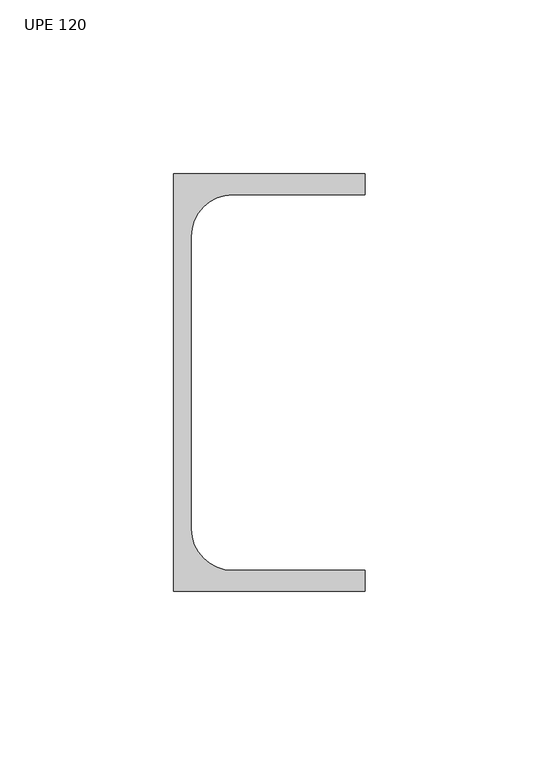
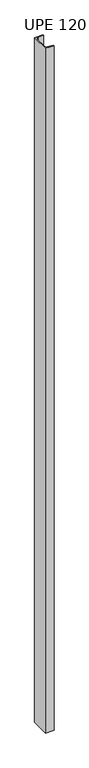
"""IFC4 building model written with IfcOpenShell, lengths in millimetres: column geometry, UPE - Canales de ala paralela - Pilar : UPE 120."""

import ifcopenshell
import ifcopenshell.guid

model = None  # the IFC model being written
_history = None  # IfcOwnerHistory: only IFC2X3 demands one
_inside = {}  # id of a spatial element -> (the spatial element, [elements in it])
_under = {}  # id of a project, library or spatial element -> (it, [spatial elements below it])
_declared = {}  # id of a project -> (the project, [libraries it declares])
_typed = {}  # id of a type object -> (the type object, [elements of that type])
_made_of = {}  # id of a material, layer set ... -> (it, [elements and type objects made of it])


def new_model(schema):
    """Start an empty IFC model of exactly this schema.

    Asked for "IFC4X3", IfcOpenShell would pick the latest addendum, in which some entities
    have other attributes; the version numbers below select the first issue.
    IFC2X3 requires an IfcOwnerHistory on every rooted entity: one is made here for all.
    """
    global model, _history
    if schema == "IFC4X3":
        model = ifcopenshell.file(schema_version=(4, 3, 0, 0))
    else:
        model = ifcopenshell.file(schema=schema)
    _inside.clear()
    _under.clear()
    _declared.clear()
    _typed.clear()
    _made_of.clear()
    _history = None
    if model.schema == "IFC2X3":
        org = make("IfcOrganization", Name="unknown")
        user = make(
            "IfcPersonAndOrganization",
            ThePerson=make("IfcPerson", FamilyName="unknown"),
            TheOrganization=org,
        )
        app = make(
            "IfcApplication",
            ApplicationDeveloper=org,
            Version="unknown",
            ApplicationFullName="unknown",
            ApplicationIdentifier="unknown",
        )
        _history = make(
            "IfcOwnerHistory",
            OwningUser=user,
            OwningApplication=app,
            ChangeAction="ADDED",
            CreationDate=0,
        )
    return model


def make(cls, **values):
    """One entity of the class cls with the attributes given. An attribute that is None is left unset."""
    return model.create_entity(
        cls, **{name: value for name, value in values.items() if value is not None}
    )


def rooted(cls, **values):
    """An entity with a GlobalId (a new one), such as an element, a storey or a relation."""
    return make(cls, GlobalId=ifcopenshell.guid.new(), OwnerHistory=_history, **values)


def si_unit(unit_type, name, prefix=None):
    """IfcSIUnit, for example si_unit("LENGTHUNIT", "METRE", prefix="MILLI")."""
    return make("IfcSIUnit", UnitType=unit_type, Prefix=prefix, Name=name)


def assignment(units):
    """IfcUnitAssignment: the units of a project."""
    return None if units is None else make("IfcUnitAssignment", Units=units)


def point(xyz):
    """IfcCartesianPoint."""
    return None if xyz is None else make("IfcCartesianPoint", Coordinates=xyz)


def direction(xyz):
    """IfcDirection."""
    return None if xyz is None else make("IfcDirection", DirectionRatios=xyz)


def frame(location, z_axis=None, x_axis=None):
    """IfcAxis2Placement3D, a coordinate frame: its origin and axes. An axis left out is left unset."""
    return make(
        "IfcAxis2Placement3D",
        Location=point(location),
        Axis=direction(z_axis),
        RefDirection=direction(x_axis),
    )


def frame_2d(location, x_axis=None):
    """IfcAxis2Placement2D, a coordinate frame in the plane: its origin and x axis."""
    return make(
        "IfcAxis2Placement2D", Location=point(location), RefDirection=direction(x_axis)
    )


def origin():
    """The frame at (0, 0, 0) with its axes left unset."""
    return frame((0.0, 0.0, 0.0))


def origin_with_axes():
    """The frame at (0, 0, 0) with the z axis (0, 0, 1) and the x axis (1, 0, 0) written out."""
    return frame((0.0, 0.0, 0.0), z_axis=(0.0, 0.0, 1.0), x_axis=(1.0, 0.0, 0.0))


def place(relative_to, where):
    """IfcLocalPlacement: puts the frame where relative to a parent placement (None: the world)."""
    return make(
        "IfcLocalPlacement", PlacementRelTo=relative_to, RelativePlacement=where
    )


def context(
    kind, dimensions, precision=None, world=None, true_north=None, identifier=None
):
    """IfcGeometricRepresentationContext, for example the 3D "Model" context."""
    return make(
        "IfcGeometricRepresentationContext",
        ContextIdentifier=identifier,
        ContextType=kind,
        CoordinateSpaceDimension=dimensions,
        Precision=precision,
        WorldCoordinateSystem=world,
        TrueNorth=true_north,
    )


def project(units=None, contexts=None):
    """IfcProject with its units and contexts."""
    return rooted(
        "IfcProject",
        Name="project",
        RepresentationContexts=contexts,
        UnitsInContext=assignment(units),
    )


def spatial(cls, under=None, at=None, **own):
    """A site, building, storey or space (cls), placed at a placement, below another one or the project."""
    s = rooted(cls, ObjectPlacement=at, **own)
    if under is not None:
        _under.setdefault(under.id(), (under, []))[1].append(s)
    return s


def polyline(points):
    """IfcPolyline through the points."""
    return make("IfcPolyline", Points=[point(p) for p in points])


def circle_curve(where, radius):
    """IfcCircle in the frame where."""
    return make("IfcCircle", Position=where, Radius=radius)


def trimmed(basis, trim1, trim2, sense, master):
    """IfcTrimmedCurve: the piece of a basis curve between two trims."""
    return make(
        "IfcTrimmedCurve",
        BasisCurve=basis,
        Trim1=trim1,
        Trim2=trim2,
        SenseAgreement=sense,
        MasterRepresentation=master,
    )


def segment(curve, same_sense, transition):
    """IfcCompositeCurveSegment."""
    return make(
        "IfcCompositeCurveSegment",
        Transition=transition,
        SameSense=same_sense,
        ParentCurve=curve,
    )


def composite_curve(segments, self_intersect=None):
    """IfcCompositeCurve: segments joined end to end."""
    return make("IfcCompositeCurve", Segments=segments, SelfIntersect=self_intersect)


def outline(outer, holes=None, kind="AREA"):
    """IfcArbitraryClosedProfileDef: a profile drawn as a closed curve; with holes, ...WithVoids."""
    if holes is None:
        return make("IfcArbitraryClosedProfileDef", ProfileType=kind, OuterCurve=outer)
    return make(
        "IfcArbitraryProfileDefWithVoids",
        ProfileType=kind,
        OuterCurve=outer,
        InnerCurves=holes,
    )


def extrude(swept, where, along, depth):
    """IfcExtrudedAreaSolid: the profile swept, set in the frame where, extruded along a direction by depth."""
    return make(
        "IfcExtrudedAreaSolid",
        SweptArea=swept,
        Position=where,
        ExtrudedDirection=direction(along),
        Depth=depth,
    )


def shape(context_of_items, identifier, shape_type, items):
    """IfcShapeRepresentation: the items that make up one representation, for example the "Body"."""
    return make(
        "IfcShapeRepresentation",
        ContextOfItems=context_of_items,
        RepresentationIdentifier=identifier,
        RepresentationType=shape_type,
        Items=items,
    )


def source(mapping_origin, context_of_items, identifier, shape_type, items):
    """IfcRepresentationMap: a shape defined once, which mapped items show again and again."""
    return make(
        "IfcRepresentationMap",
        MappingOrigin=mapping_origin,
        MappedRepresentation=shape(context_of_items, identifier, shape_type, items),
    )


def transform(
    local_origin,
    x_axis=None,
    y_axis=None,
    z_axis=None,
    scale=None,
    scale2=None,
    scale3=None,
    uniform=True,
):
    """IfcCartesianTransformationOperator3D, or its non-uniform kind. x_axis, y_axis, z_axis: its Axis1, 2, 3."""
    if uniform:
        return make(
            "IfcCartesianTransformationOperator3D",
            Axis1=direction(x_axis),
            Axis2=direction(y_axis),
            LocalOrigin=point(local_origin),
            Scale=scale,
            Axis3=direction(z_axis),
        )
    return make(
        "IfcCartesianTransformationOperator3DnonUniform",
        Axis1=direction(x_axis),
        Axis2=direction(y_axis),
        LocalOrigin=point(local_origin),
        Scale=scale,
        Axis3=direction(z_axis),
        Scale2=scale2,
        Scale3=scale3,
    )


def mapped(mapping_source, mapping_target):
    """IfcMappedItem: shows the shape of a source again, moved by a transform."""
    return make(
        "IfcMappedItem", MappingSource=mapping_source, MappingTarget=mapping_target
    )


def made_of(thing, what):
    """Note that an element or type object is made of a material, layer set ...; save() writes the relation."""
    if what is not None:
        _made_of.setdefault(what.id(), (what, []))[1].append(thing)
    return thing


def element(
    cls,
    number,
    at=None,
    inside=None,
    cuts=None,
    type_object=None,
    material=None,
    context=None,
    identifier="Body",
    shape_type=None,
    held_by="IfcProductDefinitionShape",
    body=None,
    shapes=None,
    **own,
):
    """One element of the class cls, such as IfcWall. Its Tag is "e" and its number.

    at: its placement. inside: the storey or other place that contains it. cuts: it is an
    opening in that element (IfcRelVoidsElement). A single representation is given by context,
    identifier, shape_type and body (its items); several are given by shapes. held_by: the class
    of the entity that holds the representations. save() writes the other relations.
    """
    e = rooted(cls, Tag="e%d" % number, ObjectPlacement=at, **own)
    if body is not None:
        shapes = [shape(context, identifier, shape_type, body)]
    if shapes is not None:
        e.Representation = make(held_by, Representations=shapes)
    if inside is not None:
        _inside.setdefault(inside.id(), (inside, []))[1].append(e)
    if cuts is not None:
        rooted(
            "IfcRelVoidsElement", RelatingBuildingElement=cuts, RelatedOpeningElement=e
        )
    if type_object is not None:
        _typed.setdefault(type_object.id(), (type_object, []))[1].append(e)
    return made_of(e, material)


def aggregate(whole, parts):
    """IfcRelAggregates: a whole, such as a stair, and the parts it consists of."""
    return rooted("IfcRelAggregates", RelatingObject=whole, RelatedObjects=parts)


def save(model, path):
    """Write the relations noted so far, then the file.

    IfcRelAggregates (storeys below a building ...), IfcRelContainedInSpatialStructure (elements
    in a storey), IfcRelDefinesByType, IfcRelAssociatesMaterial and IfcRelDeclares: one each for
    every whole, place, type object, material and project.
    """
    for whole, parts in _under.values():
        aggregate(whole, parts)
    for where, things in _inside.values():
        rooted(
            "IfcRelContainedInSpatialStructure",
            RelatedElements=things,
            RelatingStructure=where,
        )
    for kind, things in _typed.values():
        rooted("IfcRelDefinesByType", RelatedObjects=things, RelatingType=kind)
    for what, things in _made_of.values():
        rooted("IfcRelAssociatesMaterial", RelatedObjects=things, RelatingMaterial=what)
    for by, libraries in _declared.values():
        rooted("IfcRelDeclares", RelatingContext=by, RelatedDefinitions=libraries)
    model.write(path)


def upe_120_7fe497cd(model_context):
    return source(origin(), model_context, "Body", "SweptSolid", [
        extrude(outline(composite_curve([segment(polyline([(-19.8, -60.0), (-19.8, 60.0), (35.2, 60.0), (35.2, 54.0), (-2.8, 54.0)]), True, "CONTINUOUS"), segment(trimmed(circle_curve(frame_2d((-2.8, 42.0)), 12.0), [point((-2.8, 54.0))], [point((-14.8, 42.0))], True, "CARTESIAN"), True, "CONTINUOUS"), segment(polyline([(-14.8, 42.0), (-14.8, -42.0)]), True, "CONTINUOUS"), segment(trimmed(circle_curve(frame_2d((-2.8, -42.0)), 12.0), [point((-14.8, -42.0))], [point((-2.8, -54.0))], True, "CARTESIAN"), True, "CONTINUOUS"), segment(polyline([(-2.8, -54.0), (35.2, -54.0), (35.2, -60.0), (-19.8, -60.0)]), True, "CONTINUOUS")], self_intersect=False)), origin_with_axes(), (0.0, 0.0, 1.0), 4690.0),
    ])


if __name__ == "__main__":
    model = new_model("IFC4")
    model_context = context("Model", 3, world=origin())
    ifc_project = project(units=[si_unit("LENGTHUNIT", "METRE", prefix="MILLI")], contexts=[model_context])
    site = spatial("IfcSite", under=ifc_project)
    building = spatial("IfcBuilding", under=site)
    placement = place(None, origin())
    upe_120_shape = upe_120_7fe497cd(model_context)
    element("IfcColumn", 1, ObjectType="UPE - Canales de ala paralela - Pilar : UPE 120", at=placement, inside=building, context=model_context, shape_type="MappedRepresentation", body=[
        mapped(upe_120_shape, transform((0.0, 0.0, 0.0), x_axis=(1.0, 0.0, 0.0), y_axis=(0.0, 1.0, 0.0), z_axis=(0.0, 0.0, 1.0))),
    ])
    save(model, "model.ifc")
